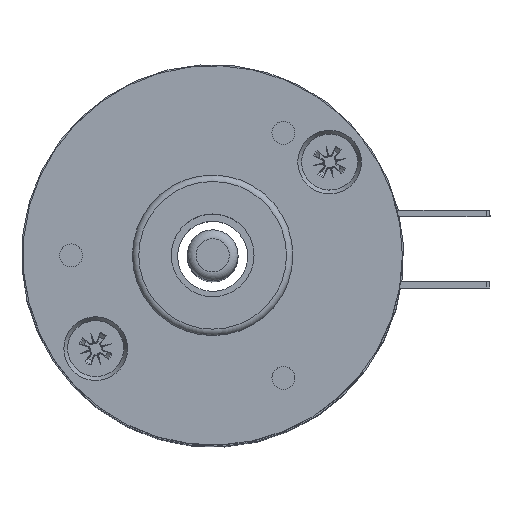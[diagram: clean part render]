
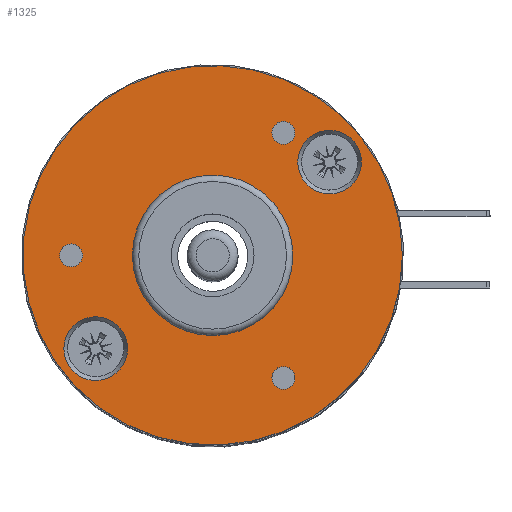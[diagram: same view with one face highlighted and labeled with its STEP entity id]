
A CAD part, top view. The second image highlights one B-rep face of the part: STEP entity #1325.
In plain terms, the highlighted planar face has unit normal (0, 0, 1).
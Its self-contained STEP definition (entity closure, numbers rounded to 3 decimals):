
#855=CARTESIAN_POINT('',(-11.687,-7.326,12.6));
#856=VERTEX_POINT('',#855);
#857=CARTESIAN_POINT('',(-9.187,-7.326,12.6));
#858=DIRECTION('',(0.0,0.0,-1.0));
#859=DIRECTION('',(-1.0,0.0,0.0));
#860=AXIS2_PLACEMENT_3D('',#857,#858,#859);
#861=CIRCLE('',#860,2.5);
#862=EDGE_CURVE('',#856,#856,#861,.T.);
#903=CARTESIAN_POINT('',(11.687,7.326,12.6));
#904=VERTEX_POINT('',#903);
#905=CARTESIAN_POINT('',(9.187,7.326,12.6));
#906=DIRECTION('',(0.0,0.0,-1.0));
#907=DIRECTION('',(1.0,0.0,0.0));
#908=AXIS2_PLACEMENT_3D('',#905,#906,#907);
#909=CIRCLE('',#908,2.5);
#910=EDGE_CURVE('',#904,#904,#909,.T.);
#962=CARTESIAN_POINT('',(5.106,-8.844,12.6));
#963=VERTEX_POINT('',#962);
#964=CARTESIAN_POINT('',(5.556,-9.624,12.6));
#965=DIRECTION('',(0.0,0.0,-1.0));
#966=DIRECTION('',(-0.5,0.866,0.0));
#967=AXIS2_PLACEMENT_3D('',#964,#965,#966);
#968=CIRCLE('',#967,0.9);
#969=EDGE_CURVE('',#963,#963,#968,.T.);
#990=CARTESIAN_POINT('',(5.106,8.844,12.6));
#991=VERTEX_POINT('',#990);
#992=CARTESIAN_POINT('',(5.556,9.624,12.6));
#993=DIRECTION('',(0.0,0.0,-1.));
#994=DIRECTION('',(-0.5,-0.866,0.0));
#995=AXIS2_PLACEMENT_3D('',#992,#993,#994);
#996=CIRCLE('',#995,0.9);
#997=EDGE_CURVE('',#991,#991,#996,.T.);
#1018=CARTESIAN_POINT('',(-10.213,0.0,12.6));
#1019=VERTEX_POINT('',#1018);
#1020=CARTESIAN_POINT('',(-11.113,0.0,12.6));
#1021=DIRECTION('',(0.0,0.0,-1.0));
#1022=DIRECTION('',(1.0,0.0,0.0));
#1023=AXIS2_PLACEMENT_3D('',#1020,#1021,#1022);
#1024=CIRCLE('',#1023,0.9);
#1025=EDGE_CURVE('',#1019,#1019,#1024,.T.);
#1249=CARTESIAN_POINT('',(6.3,0.,12.6));
#1250=VERTEX_POINT('',#1249);
#1251=CARTESIAN_POINT('',(0.0,0.0,12.6));
#1252=DIRECTION('',(0.0,0.0,-1.0));
#1253=DIRECTION('',(-1.0,0.0,0.0));
#1254=AXIS2_PLACEMENT_3D('',#1251,#1252,#1253);
#1255=CIRCLE('',#1254,6.3);
#1256=EDGE_CURVE('',#1250,#1250,#1255,.T.);
#1287=CARTESIAN_POINT('',(14.9,0.,12.6));
#1288=VERTEX_POINT('',#1287);
#1289=CARTESIAN_POINT('',(0.0,0.0,12.6));
#1290=DIRECTION('',(0.0,0.0,-1.0));
#1291=DIRECTION('',(-1.0,0.0,0.0));
#1292=AXIS2_PLACEMENT_3D('',#1289,#1290,#1291);
#1293=CIRCLE('',#1292,14.9);
#1294=EDGE_CURVE('',#1288,#1288,#1293,.T.);
#1299=CARTESIAN_POINT('',(0.0,0.0,12.6));
#1300=DIRECTION('',(0.0,0.0,-1.0));
#1301=DIRECTION('',(-1.0,0.0,0.0));
#1302=AXIS2_PLACEMENT_3D('',#1299,#1300,#1301);
#1303=PLANE('',#1302);
#1304=ORIENTED_EDGE('',*,*,#1294,.F.);
#1305=EDGE_LOOP('',(#1304));
#1306=FACE_OUTER_BOUND('',#1305,.T.);
#1307=ORIENTED_EDGE('',*,*,#862,.T.);
#1308=EDGE_LOOP('',(#1307));
#1309=FACE_BOUND('',#1308,.T.);
#1310=ORIENTED_EDGE('',*,*,#910,.T.);
#1311=EDGE_LOOP('',(#1310));
#1312=FACE_BOUND('',#1311,.T.);
#1313=ORIENTED_EDGE('',*,*,#969,.T.);
#1314=EDGE_LOOP('',(#1313));
#1315=FACE_BOUND('',#1314,.T.);
#1316=ORIENTED_EDGE('',*,*,#997,.T.);
#1317=EDGE_LOOP('',(#1316));
#1318=FACE_BOUND('',#1317,.T.);
#1319=ORIENTED_EDGE('',*,*,#1025,.T.);
#1320=EDGE_LOOP('',(#1319));
#1321=FACE_BOUND('',#1320,.T.);
#1322=ORIENTED_EDGE('',*,*,#1256,.T.);
#1323=EDGE_LOOP('',(#1322));
#1324=FACE_BOUND('',#1323,.T.);
#1325=ADVANCED_FACE('',(#1306,#1309,#1312,#1315,#1318,#1321,#1324),#1303,.F.);
